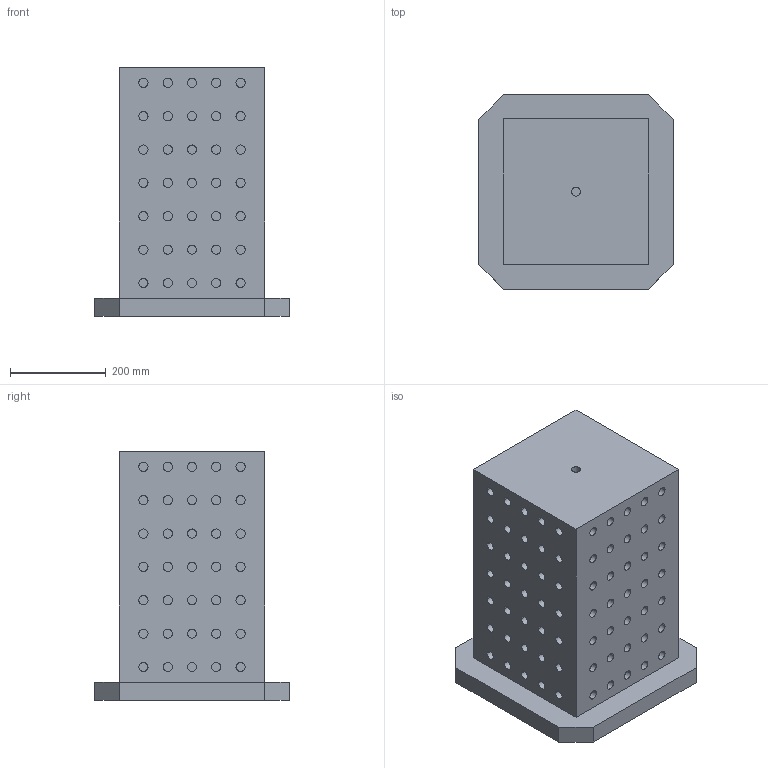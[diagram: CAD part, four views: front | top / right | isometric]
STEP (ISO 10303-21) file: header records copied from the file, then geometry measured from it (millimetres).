
FILE_DESCRIPTION(('STEP AP214'),'1');
FILE_NAME('Tombstone.STP','2020-06-11T22:32:43',(' '),(' '),'Spatial InterOp 3D',' ',' ');
FILE_SCHEMA(('AUTOMOTIVE_DESIGN { 1 0 10303 214 1 1 1 1 }'));
Length unit declared in the file: metre
Products named in the file (1): Solid
Bounding box: 406.4 x 406.4 x 520.7 mm (x, y, z)
Volume: 49874015.8 mm3; surface area: 1187723.4 mm2
Topology: 1 solids, 1 shells, 438 faces, 882 edges, 588 vertices
Faces by surface type: cylinder 282, plane 156
Entity records: 11735 total; most frequent: DIRECTION 2324, CARTESIAN_POINT 1909, ORIENTED_EDGE 1764, AXIS2_PLACEMENT_3D 1003, EDGE_CURVE 882, VERTEX_POINT 588, EDGE_LOOP 580, CIRCLE 564
